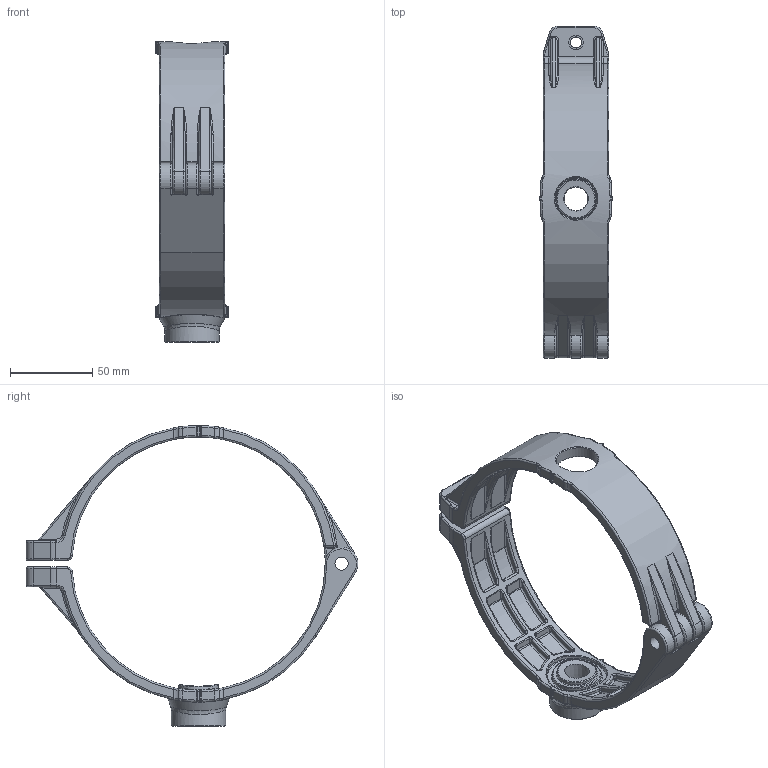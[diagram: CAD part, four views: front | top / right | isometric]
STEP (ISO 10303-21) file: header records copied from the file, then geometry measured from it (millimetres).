
FILE_DESCRIPTION(/* description */ (''),/* implementation_level */ '2;1');
FILE_NAME(/* name */ 'AU19 9099 00.stp',/* time_stamp */ '2025-07-25T14:11:28+08:00',/* author */ (''),/* organization */ (''),/* preprocessor_version */ 'ST-DEVELOPER v11',/* originating_system */ 'SIEMENS PLM Software NX 7.5',/* authorisation */ '');
FILE_SCHEMA (('CONFIG_CONTROL_DESIGN'));
Length unit declared in the file: millimetre
Products named in the file (1): Admi3CF6xyng
Bounding box: 45 x 201.96 x 183 mm (x, y, z)
Volume: 148253.5 mm3; surface area: 65607.3 mm2
Topology: 2 solids, 2 shells, 1066 faces, 2430 edges, 1316 vertices
Faces by surface type: cylinder 365, bspline 218, torus 202, plane 162, sphere 116, cone 3
Full cylindrical faces by diameter (mm): 6.8 x1, 8 x5, 9 x1, 18.5 x1, 24.001 x1, 25.5 x1, 33 x1
Entity records: 37830 total; most frequent: CARTESIAN_POINT 15779, DIRECTION 4741, ORIENTED_EDGE 4546, EDGE_CURVE 2273, AXIS2_PLACEMENT_3D 2055, VERTEX_POINT 1260, CIRCLE 1190, EDGE_LOOP 1133
